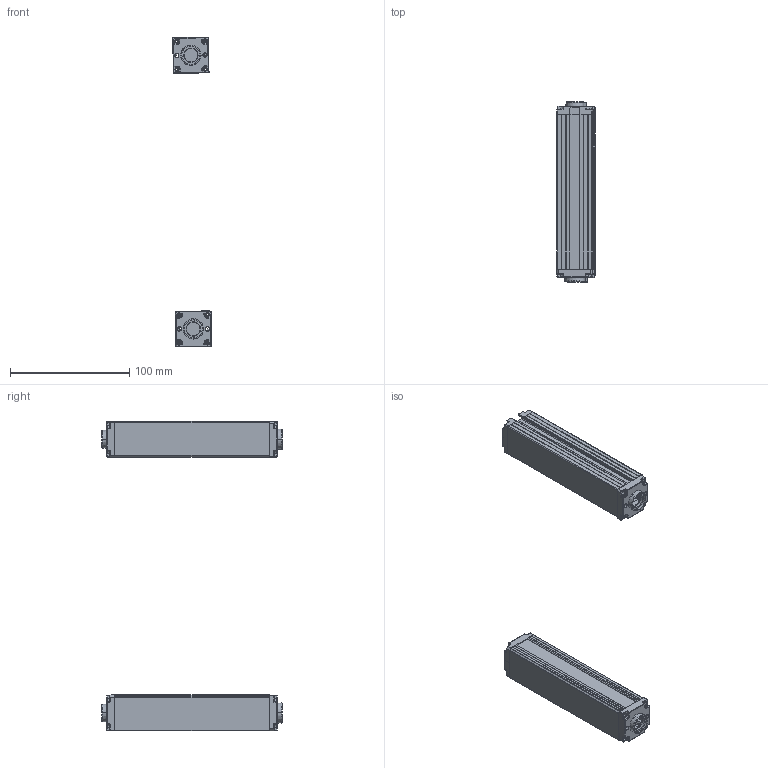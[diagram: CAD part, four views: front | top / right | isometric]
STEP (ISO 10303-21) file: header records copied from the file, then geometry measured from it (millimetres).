
FILE_DESCRIPTION (( 'STEP AP203' ), '1' );
FILE_NAME ('ZDA0620-130.STEP', '2022-08-30T07:24:21', ( 'Windows 蚚誧' ), ( 'Organization' ), 'SwSTEP 2.0', 'SolidWorks 2020', '' );
FILE_SCHEMA (( 'CONFIG_CONTROL_DESIGN' ));
Length unit declared in the file: millimetre
Products named in the file (5): 錨璃1; 錨璃10; 錨璃8; ZDA0620-130; 錨璃8 - 萵掛 (2)
Assembly tree (8 placements, depth 2):
  ZDA0620-130
    錨璃1  x2
    錨璃8  x2
    錨璃8 - 萵掛 (2)  x2
    錨璃10  x2
Bounding box: 32.36 x 151.4 x 260.35 mm (x, y, z)
Volume: 92793.7 mm3; surface area: 101175.8 mm2
Topology: 8 solids, 8 shells, 1032 faces, 2690 edges, 1668 vertices
Faces by surface type: plane 464, cylinder 310, cone 120, bspline 58, torus 48, sphere 32
Entity records: 17901 total; most frequent: CARTESIAN_POINT 4731, ORIENTED_EDGE 2666, DIRECTION 2616, EDGE_CURVE 1333, AXIS2_PLACEMENT_3D 894, VERTEX_POINT 834, VECTOR 828, LINE 828
